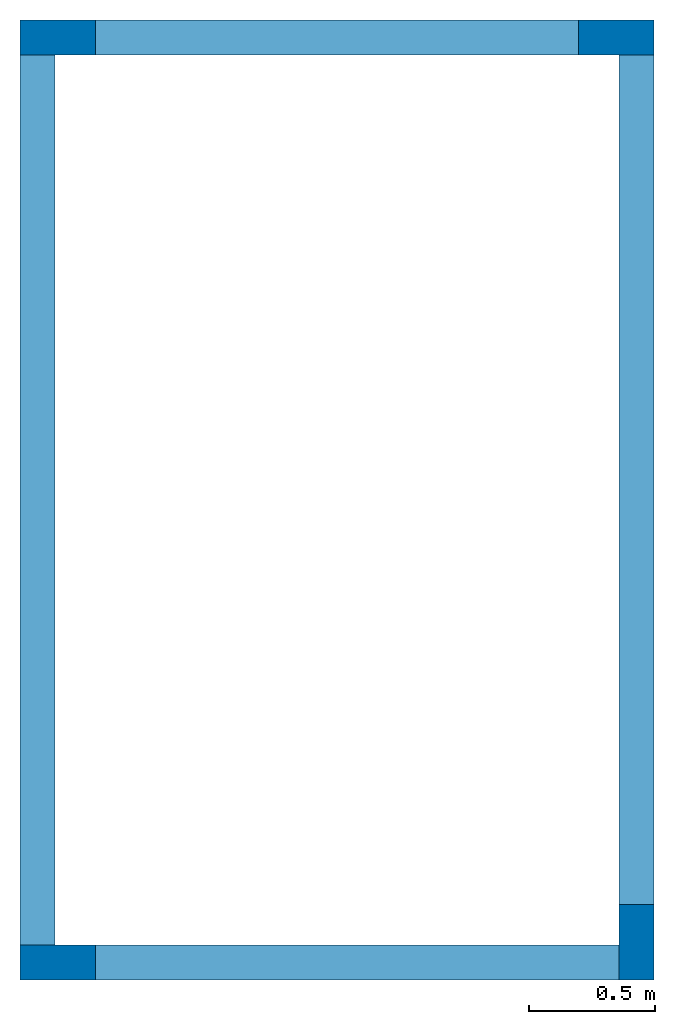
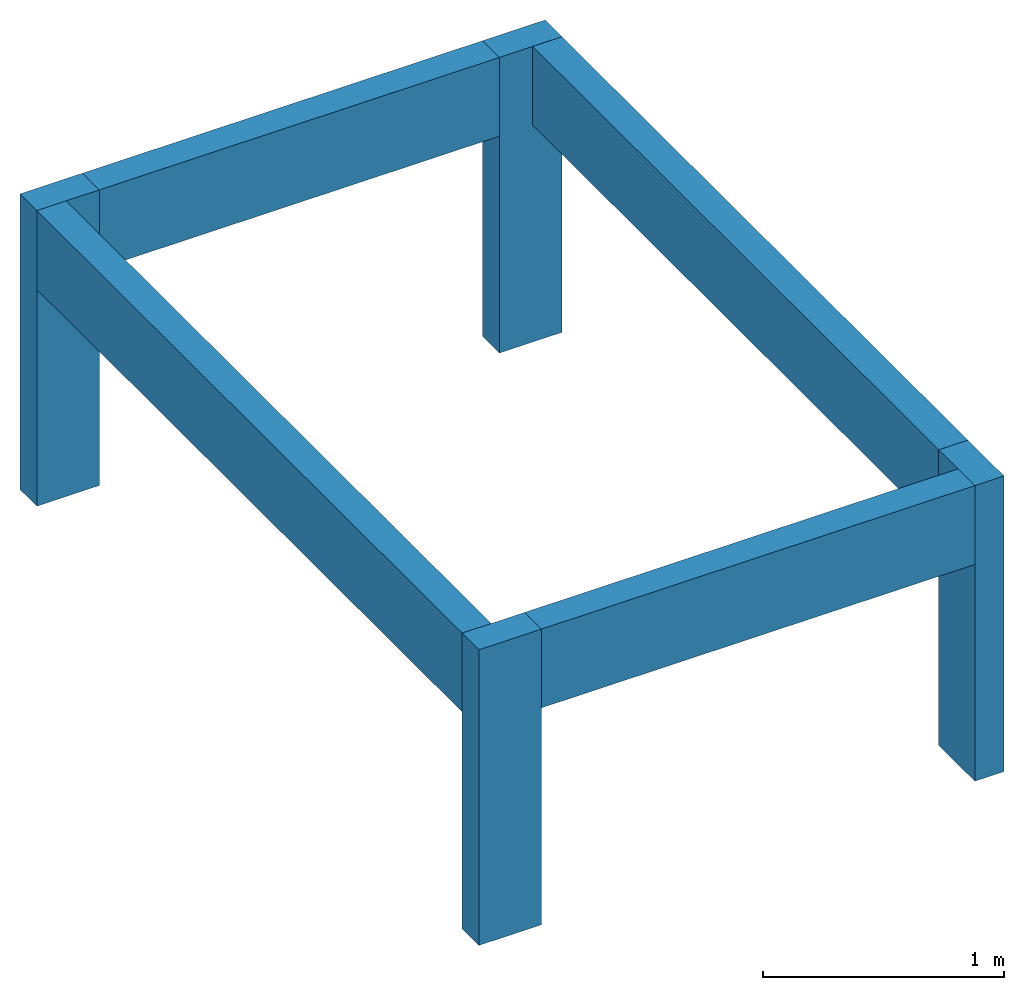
# One storey: 4 beams, 4 columns.
"""IFC4 building model written with IfcOpenShell, lengths in centimetres."""

import ifcopenshell
import ifcopenshell.guid

model = None  # the IFC model being written
_history = None  # IfcOwnerHistory: only IFC2X3 demands one
_inside = {}  # id of a spatial element -> (the spatial element, [elements in it])
_under = {}  # id of a project, library or spatial element -> (it, [spatial elements below it])
_declared = {}  # id of a project -> (the project, [libraries it declares])
_typed = {}  # id of a type object -> (the type object, [elements of that type])
_made_of = {}  # id of a material, layer set ... -> (it, [elements and type objects made of it])


def new_model(schema):
    """Start an empty IFC model of exactly this schema.

    Asked for "IFC4X3", IfcOpenShell would pick the latest addendum, in which some entities
    have other attributes; the version numbers below select the first issue.
    IFC2X3 requires an IfcOwnerHistory on every rooted entity: one is made here for all.
    """
    global model, _history
    if schema == "IFC4X3":
        model = ifcopenshell.file(schema_version=(4, 3, 0, 0))
    else:
        model = ifcopenshell.file(schema=schema)
    _inside.clear()
    _under.clear()
    _declared.clear()
    _typed.clear()
    _made_of.clear()
    _history = None
    if model.schema == "IFC2X3":
        org = make("IfcOrganization", Name="unknown")
        user = make(
            "IfcPersonAndOrganization",
            ThePerson=make("IfcPerson", FamilyName="unknown"),
            TheOrganization=org,
        )
        app = make(
            "IfcApplication",
            ApplicationDeveloper=org,
            Version="unknown",
            ApplicationFullName="unknown",
            ApplicationIdentifier="unknown",
        )
        _history = make(
            "IfcOwnerHistory",
            OwningUser=user,
            OwningApplication=app,
            ChangeAction="ADDED",
            CreationDate=0,
        )
    return model


def make(cls, **values):
    """One entity of the class cls with the attributes given. An attribute that is None is left unset."""
    return model.create_entity(
        cls, **{name: value for name, value in values.items() if value is not None}
    )


def rooted(cls, **values):
    """An entity with a GlobalId (a new one), such as an element, a storey or a relation."""
    return make(cls, GlobalId=ifcopenshell.guid.new(), OwnerHistory=_history, **values)


def si_unit(unit_type, name, prefix=None):
    """IfcSIUnit, for example si_unit("LENGTHUNIT", "METRE", prefix="MILLI")."""
    return make("IfcSIUnit", UnitType=unit_type, Prefix=prefix, Name=name)


def derived_unit(unit_type, elements):
    """IfcDerivedUnit: a product of units, each with its exponent."""
    return make(
        "IfcDerivedUnit",
        Elements=[
            make("IfcDerivedUnitElement", Unit=unit, Exponent=power)
            for unit, power in elements
        ],
        UnitType=unit_type,
    )


def assignment(units):
    """IfcUnitAssignment: the units of a project."""
    return None if units is None else make("IfcUnitAssignment", Units=units)


def point(xyz):
    """IfcCartesianPoint."""
    return None if xyz is None else make("IfcCartesianPoint", Coordinates=xyz)


def direction(xyz):
    """IfcDirection."""
    return None if xyz is None else make("IfcDirection", DirectionRatios=xyz)


def frame(location, z_axis=None, x_axis=None):
    """IfcAxis2Placement3D, a coordinate frame: its origin and axes. An axis left out is left unset."""
    return make(
        "IfcAxis2Placement3D",
        Location=point(location),
        Axis=direction(z_axis),
        RefDirection=direction(x_axis),
    )


def frame_2d(location, x_axis=None):
    """IfcAxis2Placement2D, a coordinate frame in the plane: its origin and x axis."""
    return make(
        "IfcAxis2Placement2D", Location=point(location), RefDirection=direction(x_axis)
    )


def origin_with_axes():
    """The frame at (0, 0, 0) with the z axis (0, 0, 1) and the x axis (1, 0, 0) written out."""
    return frame((0.0, 0.0, 0.0), z_axis=(0.0, 0.0, 1.0), x_axis=(1.0, 0.0, 0.0))


def origin_2d_with_axis():
    """The frame at (0, 0) in the plane with the x axis (1, 0) written out."""
    return frame_2d((0.0, 0.0), x_axis=(1.0, 0.0))


def place(relative_to, where):
    """IfcLocalPlacement: puts the frame where relative to a parent placement (None: the world)."""
    return make(
        "IfcLocalPlacement", PlacementRelTo=relative_to, RelativePlacement=where
    )


def context(
    kind, dimensions, precision=None, world=None, true_north=None, identifier=None
):
    """IfcGeometricRepresentationContext, for example the 3D "Model" context."""
    return make(
        "IfcGeometricRepresentationContext",
        ContextIdentifier=identifier,
        ContextType=kind,
        CoordinateSpaceDimension=dimensions,
        Precision=precision,
        WorldCoordinateSystem=world,
        TrueNorth=true_north,
    )


def project(units=None, contexts=None):
    """IfcProject with its units and contexts."""
    return rooted(
        "IfcProject",
        Name="project",
        RepresentationContexts=contexts,
        UnitsInContext=assignment(units),
    )


def spatial(cls, under=None, at=None, **own):
    """A site, building, storey or space (cls), placed at a placement, below another one or the project."""
    s = rooted(cls, ObjectPlacement=at, **own)
    if under is not None:
        _under.setdefault(under.id(), (under, []))[1].append(s)
    return s


def profile(cls, at=None, kind="AREA", **sizes):
    """A parametric profile (cls). Its sizes go by their IFC names, for example OverallWidth=200.0."""
    return make(cls, ProfileType=kind, Position=at, **sizes)


def rectangle(**sizes):
    """IfcRectangleProfileDef."""
    return profile("IfcRectangleProfileDef", **sizes)


def extrude(swept, where, along, depth):
    """IfcExtrudedAreaSolid: the profile swept, set in the frame where, extruded along a direction by depth."""
    return make(
        "IfcExtrudedAreaSolid",
        SweptArea=swept,
        Position=where,
        ExtrudedDirection=direction(along),
        Depth=depth,
    )


def shape(context_of_items, identifier, shape_type, items):
    """IfcShapeRepresentation: the items that make up one representation, for example the "Body"."""
    return make(
        "IfcShapeRepresentation",
        ContextOfItems=context_of_items,
        RepresentationIdentifier=identifier,
        RepresentationType=shape_type,
        Items=items,
    )


def material(Name=None, Category=None):
    """IfcMaterial."""
    return make("IfcMaterial", Name=Name, Category=Category)


def made_of(thing, what):
    """Note that an element or type object is made of a material, layer set ...; save() writes the relation."""
    if what is not None:
        _made_of.setdefault(what.id(), (what, []))[1].append(thing)
    return thing


def element(
    cls,
    number,
    at=None,
    inside=None,
    cuts=None,
    type_object=None,
    material=None,
    context=None,
    identifier="Body",
    shape_type=None,
    held_by="IfcProductDefinitionShape",
    body=None,
    shapes=None,
    **own,
):
    """One element of the class cls, such as IfcWall. Its Tag is "e" and its number.

    at: its placement. inside: the storey or other place that contains it. cuts: it is an
    opening in that element (IfcRelVoidsElement). A single representation is given by context,
    identifier, shape_type and body (its items); several are given by shapes. held_by: the class
    of the entity that holds the representations. save() writes the other relations.
    """
    e = rooted(cls, Tag="e%d" % number, ObjectPlacement=at, **own)
    if body is not None:
        shapes = [shape(context, identifier, shape_type, body)]
    if shapes is not None:
        e.Representation = make(held_by, Representations=shapes)
    if inside is not None:
        _inside.setdefault(inside.id(), (inside, []))[1].append(e)
    if cuts is not None:
        rooted(
            "IfcRelVoidsElement", RelatingBuildingElement=cuts, RelatedOpeningElement=e
        )
    if type_object is not None:
        _typed.setdefault(type_object.id(), (type_object, []))[1].append(e)
    return made_of(e, material)


def aggregate(whole, parts):
    """IfcRelAggregates: a whole, such as a stair, and the parts it consists of."""
    return rooted("IfcRelAggregates", RelatingObject=whole, RelatedObjects=parts)


def save(model, path):
    """Write the relations noted so far, then the file.

    IfcRelAggregates (storeys below a building ...), IfcRelContainedInSpatialStructure (elements
    in a storey), IfcRelDefinesByType, IfcRelAssociatesMaterial and IfcRelDeclares: one each for
    every whole, place, type object, material and project.
    """
    for whole, parts in _under.values():
        aggregate(whole, parts)
    for where, things in _inside.values():
        rooted(
            "IfcRelContainedInSpatialStructure",
            RelatedElements=things,
            RelatingStructure=where,
        )
    for kind, things in _typed.values():
        rooted("IfcRelDefinesByType", RelatedObjects=things, RelatingType=kind)
    for what, things in _made_of.values():
        rooted("IfcRelAssociatesMaterial", RelatedObjects=things, RelatingMaterial=what)
    for by, libraries in _declared.values():
        rooted("IfcRelDeclares", RelatingContext=by, RelatedDefinitions=libraries)
    model.write(path)


model = new_model("IFC4")

# Units and contexts
model_context = context("Model", 3, precision=1e-05, world=origin_with_axes(), identifier="Body")
ifc_project = project(units=[si_unit("LENGTHUNIT", "METRE", prefix="CENTI"), si_unit("VOLUMEUNIT", "CUBIC_METRE"), si_unit("AREAUNIT", "SQUARE_METRE"), si_unit("POWERUNIT", "WATT"), si_unit("LUMINOUSFLUXUNIT", "LUMEN"), si_unit("ELECTRICCURRENTUNIT", "AMPERE"), si_unit("PRESSUREUNIT", "PASCAL", prefix="KILO"), si_unit("MASSUNIT", "GRAM", prefix="KILO"), si_unit("PLANEANGLEUNIT", "RADIAN"), derived_unit("VOLUMETRICFLOWRATEUNIT", [(si_unit("LENGTHUNIT", "METRE"), 3), (si_unit("TIMEUNIT", "SECOND"), -1)])], contexts=[model_context])

# Site, building, storey
site_placement = place(None, origin_with_axes())
site = spatial("IfcSite", under=ifc_project, at=site_placement)
building_placement = place(site_placement, frame((0.0, 0.0, 24.0)))
building = spatial("IfcBuilding", under=site, at=building_placement)
storey_placement = place(building_placement, frame((0.0, 0.0, 596.0), z_axis=(0.0, 0.0, 1.0), x_axis=(1.0, 0.0, 0.0)))
storey = spatial("IfcBuildingStorey", under=building, at=storey_placement, Name="TORRE CX DE ÁGUA", CompositionType="ELEMENT", Elevation=620.0)

# Columns
ifc_material = material(Name="Concreto")
for number, where, z_axis, x_axis, name in (
    (1, (1274.22, 1563.0, 0.0), (0.0, 0.0, 1.0), (1.0, 0.0, 0.0), "P3"),
    (2, (1496.18, 1563.0, 0.0), (0.0, 0.0, 1.0), (1.0, 0.0, 0.0), "P4"),
    (3, (1274.22, 1195.52, 0.0), (0.0, 0.0, 1.0), (1.0, 0.0, 0.0), "P8"),
):
    element("IfcColumn", number, at=place(storey_placement, frame(where, z_axis=z_axis, x_axis=x_axis)), inside=storey, material=ifc_material, Name=name, context=model_context, shape_type="SolidModel", body=[
        extrude(rectangle(XDim=14.0, YDim=30.0, at=origin_2d_with_axis()), frame((0.0, 0.0, 0.0), z_axis=(0.0, 0.0, 1.0), x_axis=(0.0, -1.0, 0.0)), (0.0, 0.0, -1.0), 150.0),
    ])
column_placement = place(storey_placement, frame((1504.18, 1203.52, 0.0), z_axis=(0.0, 0.0, 1.0), x_axis=(1.0, 0.0, 0.0)))
element("IfcColumn", 4, at=column_placement, inside=storey, material=ifc_material, Name="P9", context=model_context, shape_type="SolidModel", body=[
    extrude(rectangle(XDim=14.0, YDim=30.0, at=origin_2d_with_axis()), origin_with_axes(), (0.0, 0.0, -1.0), 150.0),
])

# Beams
beam_1_placement = place(storey_placement, frame((1385.2, 1563.0, 0.0), z_axis=(0.0, 0.0, 1.0), x_axis=(1.0, 0.0, 0.0)))
element("IfcBeam", 5, at=beam_1_placement, inside=storey, material=ifc_material, Name="V1", context=model_context, shape_type="SolidModel", body=[
    extrude(rectangle(XDim=14.0, YDim=40.0, at=origin_2d_with_axis()), frame((-95.98, 0.0, -20.0), z_axis=(1.0, 0.0, 0.0), x_axis=(0.0, 1.0, 0.0)), (0.0, 0.0, 1.0), 191.96),
])
beam_2_placement = place(storey_placement, frame((1393.2, 1195.52, 0.0), z_axis=(0.0, 0.0, 1.0), x_axis=(1.0, 0.0, 0.0)))
element("IfcBeam", 6, at=beam_2_placement, inside=storey, material=ifc_material, Name="V2", context=model_context, shape_type="SolidModel", body=[
    extrude(rectangle(XDim=14.0, YDim=40.0, at=origin_2d_with_axis()), frame((-103.98, 0.0, -20.0), z_axis=(1.0, 0.0, 0.0), x_axis=(0.0, 1.0, 0.0)), (0.0, 0.0, 1.0), 207.96),
])
beam_3_placement = place(storey_placement, frame((1266.22, 1379.26, 0.0), z_axis=(0.0, 0.0, 1.0), x_axis=(1.0, 0.0, 0.0)))
element("IfcBeam", 7, at=beam_3_placement, inside=storey, material=ifc_material, Name="V3", context=model_context, shape_type="SolidModel", body=[
    extrude(rectangle(XDim=14.0, YDim=40.0, at=origin_2d_with_axis()), frame((0.0, -176.74, -20.0), z_axis=(0.0, 1.0, 0.0), x_axis=(1.0, 0.0, 0.0)), (0.0, 0.0, 1.0), 353.48),
])
beam_4_placement = place(storey_placement, frame((1504.18, 1387.26, 0.0), z_axis=(0.0, 0.0, 1.0), x_axis=(1.0, 0.0, 0.0)))
element("IfcBeam", 8, at=beam_4_placement, inside=storey, material=ifc_material, Name="V4", context=model_context, shape_type="SolidModel", body=[
    extrude(rectangle(XDim=14.0, YDim=40.0, at=origin_2d_with_axis()), frame((0.0, -168.74, -20.0), z_axis=(0.0, 1.0, 0.0), x_axis=(1.0, 0.0, 0.0)), (0.0, 0.0, 1.0), 337.48),
])

save(model, "model.ifc")
